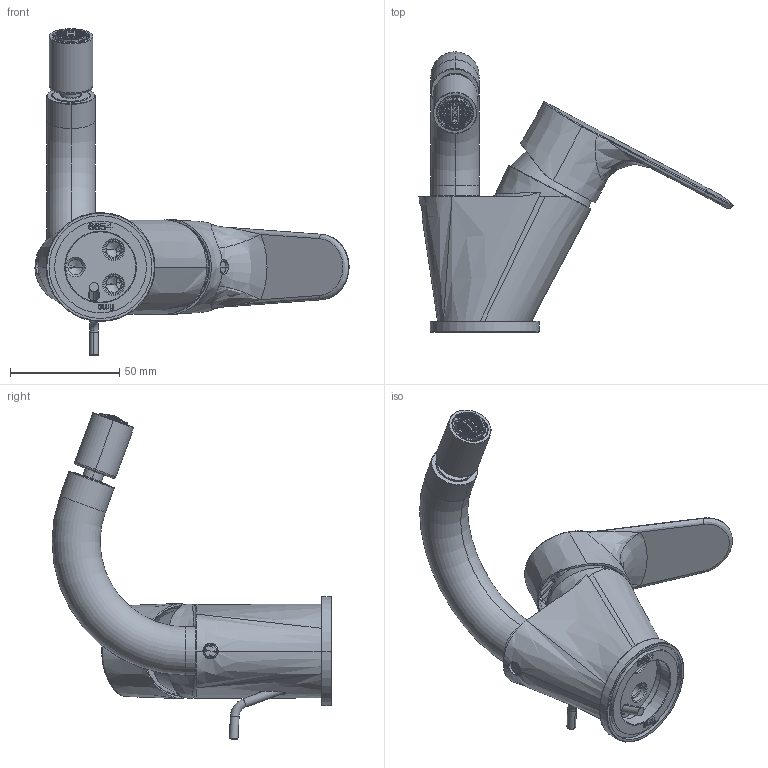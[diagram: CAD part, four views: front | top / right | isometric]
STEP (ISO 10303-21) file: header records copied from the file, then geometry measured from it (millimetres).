
FILE_DESCRIPTION((''),'2;1');
FILE_NAME('F3842_FILE_3D','2017-11-21T',('ivanv'),(''),'CREO PARAMETRIC BY PTC INC, 2016260','CREO PARAMETRIC BY PTC INC, 2016260','');
FILE_SCHEMA(('CONFIG_CONTROL_DESIGN'));
Length unit declared in the file: millimetre
Products named in the file (1): F3842_FILE_3D
Bounding box: 143.61 x 128 x 149.3 mm (x, y, z)
Volume: 118505.1 mm3; surface area: 71197.2 mm2
Topology: 3 solids, 3 shells, 4078 faces, 11587 edges, 7622 vertices
Faces by surface type: plane 2667, torus 475, cylinder 388, bspline 315, cone 136, extrusion 58, sphere 39
Entity records: 178185 total; most frequent: CARTESIAN_POINT 79923, ORIENTED_EDGE 23130, DIRECTION 16477, EDGE_CURVE 11565, VERTEX_POINT 7622, AXIS2_PLACEMENT_3D 5699, VECTOR 5079, LINE 5021
